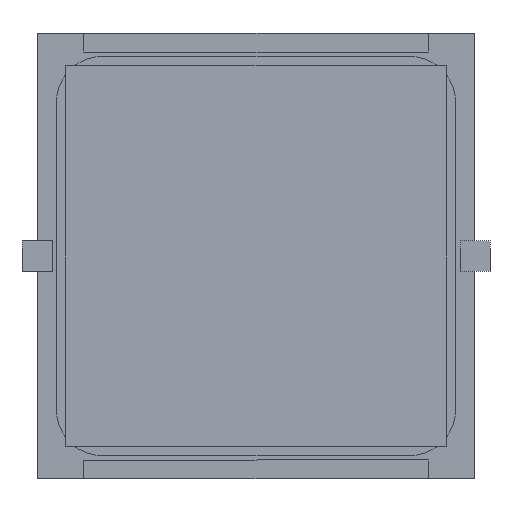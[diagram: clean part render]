
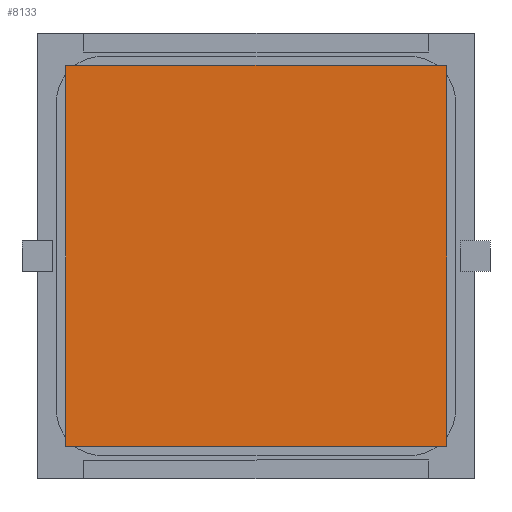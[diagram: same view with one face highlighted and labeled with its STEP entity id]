
A CAD part, front view. The second image highlights one B-rep face of the part: STEP entity #8133.
In plain terms, the highlighted planar face has unit normal (0, -1, 0).
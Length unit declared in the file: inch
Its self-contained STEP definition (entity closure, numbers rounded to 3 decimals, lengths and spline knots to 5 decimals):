
#893 = LINE ( 'NONE', #2732, #7572 ) ;
#923 = ORIENTED_EDGE ( 'NONE', *, *, #2994, .F. ) ;
#1043 = EDGE_CURVE ( 'NONE', #10532, #2947, #893, .T. ) ;
#1204 = FACE_OUTER_BOUND ( 'NONE', #10900, .T. ) ;
#1294 = VECTOR ( 'NONE', #5431, 39.37008 ) ;
#1763 = CARTESIAN_POINT ( 'NONE',  ( 0.5, -0.005, -0.5 ) ) ;
#1938 = LINE ( 'NONE', #4569, #1294 ) ;
#2732 = CARTESIAN_POINT ( 'NONE',  ( 0.5, -0.005, -0.5 ) ) ;
#2856 = DIRECTION ( 'NONE',  ( 0., 0., 1. ) ) ;
#2947 = VERTEX_POINT ( 'NONE', #1763 ) ;
#2994 = EDGE_CURVE ( 'NONE', #9968, #10532, #1938, .T. ) ;
#3757 = CARTESIAN_POINT ( 'NONE',  ( -0.5, -0.005, 0.5 ) ) ;
#3826 = ORIENTED_EDGE ( 'NONE', *, *, #8606, .F. ) ;
#4507 = LINE ( 'NONE', #6389, #6573 ) ;
#4569 = CARTESIAN_POINT ( 'NONE',  ( -0.5, -0.005, 0.5 ) ) ;
#5029 = CARTESIAN_POINT ( 'NONE',  ( -0.5, -0.005, -0.5 ) ) ;
#5431 = DIRECTION ( 'NONE',  ( 1., 0., 0. ) ) ;
#5534 = EDGE_CURVE ( 'NONE', #6277, #9968, #4507, .T. ) ;
#5729 = LINE ( 'NONE', #5029, #7814 ) ;
#5909 = CARTESIAN_POINT ( 'NONE',  ( 0.5, -0.005, 0.5 ) ) ;
#6277 = VERTEX_POINT ( 'NONE', #9984 ) ;
#6278 = DIRECTION ( 'NONE',  ( 0., 1., 0. ) ) ;
#6389 = CARTESIAN_POINT ( 'NONE',  ( -0.5, -0.005, -0.5 ) ) ;
#6573 = VECTOR ( 'NONE', #2856, 39.37008 ) ;
#6999 = CARTESIAN_POINT ( 'NONE',  ( -0.5, -0.005, 0.5 ) ) ;
#7572 = VECTOR ( 'NONE', #11364, 39.37008 ) ;
#7616 = ORIENTED_EDGE ( 'NONE', *, *, #5534, .F. ) ;
#7814 = VECTOR ( 'NONE', #8373, 39.37008 ) ;
#8133 = ADVANCED_FACE ( 'NONE', ( #1204 ), #8871, .F. ) ;
#8373 = DIRECTION ( 'NONE',  ( -1., 0., 0. ) ) ;
#8606 = EDGE_CURVE ( 'NONE', #2947, #6277, #5729, .T. ) ;
#8871 = PLANE ( 'NONE',  #8899 ) ;
#8899 = AXIS2_PLACEMENT_3D ( 'NONE', #3757, #6278, #9041 ) ;
#9041 = DIRECTION ( 'NONE',  ( 0., 0., 1. ) ) ;
#9968 = VERTEX_POINT ( 'NONE', #6999 ) ;
#9984 = CARTESIAN_POINT ( 'NONE',  ( -0.5, -0.005, -0.5 ) ) ;
#10115 = ORIENTED_EDGE ( 'NONE', *, *, #1043, .F. ) ;
#10532 = VERTEX_POINT ( 'NONE', #5909 ) ;
#10900 = EDGE_LOOP ( 'NONE', ( #7616, #3826, #10115, #923 ) ) ;
#11364 = DIRECTION ( 'NONE',  ( 0., 0., -1. ) ) ;
